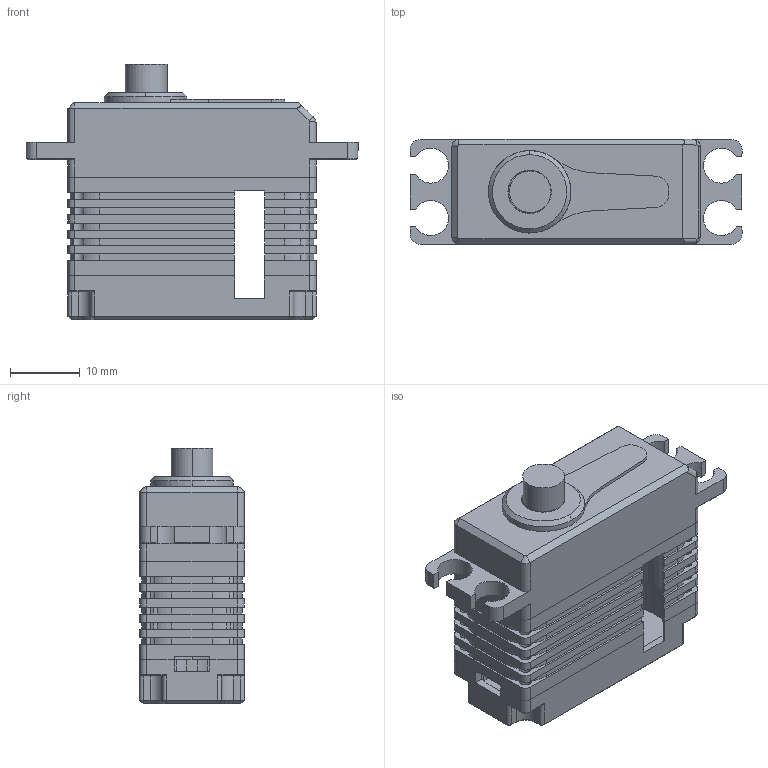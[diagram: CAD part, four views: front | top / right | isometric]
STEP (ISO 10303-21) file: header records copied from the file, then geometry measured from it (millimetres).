
FILE_DESCRIPTION (( 'STEP AP214' ), '1' );
FILE_NAME ('X15-755X_DM.STEP', '2023-11-08T06:42:52', ( '' ), ( '' ), 'SwSTEP 2.0', 'SolidWorks 2016', '' );
FILE_SCHEMA (( 'AUTOMOTIVE_DESIGN' ));
Length unit declared in the file: millimetre
Products named in the file (1): X15-755X_DM
Bounding box: 47.5 x 15 x 36.6 mm (x, y, z)
Volume: 5855.8 mm3; surface area: 9871.8 mm2
Topology: 4 solids, 4 shells, 547 faces, 1660 edges, 1082 vertices
Faces by surface type: plane 279, cylinder 239, cone 27, bspline 2
Entity records: 18947 total; most frequent: CARTESIAN_POINT 3412, DIRECTION 3360, ORIENTED_EDGE 3304, EDGE_CURVE 1652, AXIS2_PLACEMENT_3D 1186, VERTEX_POINT 1082, LINE 988, VECTOR 988
